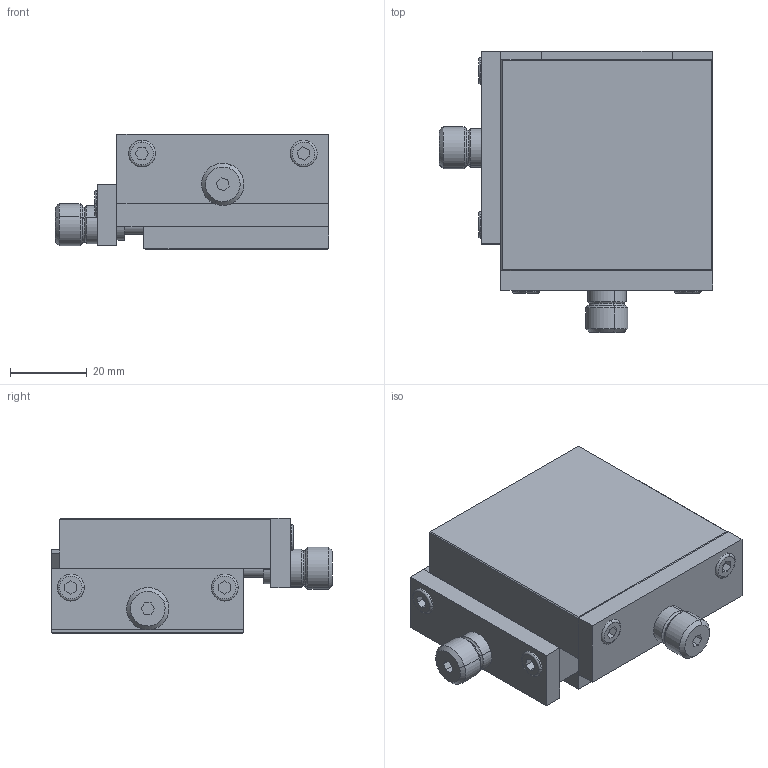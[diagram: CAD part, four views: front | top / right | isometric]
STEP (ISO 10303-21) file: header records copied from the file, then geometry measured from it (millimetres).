
FILE_DESCRIPTION(('STEP AP214'),'1');
FILE_NAME('tmp0.stp','2020-10-01T13:15:00',(' '),(' '),'Spatial InterOp 3D',' ',' ');
FILE_SCHEMA(('automotive_design'));
Length unit declared in the file: millimetre
Products named in the file (13): B55A_StepAP214|NONE#403.663.00;NONE; B55A_StepAP214|NONE#403.662.00;NONE; B55A_StepAP214|NONE#DIN_912;NONE; B55A_StepAP214|NONE#403.700.00;NONE; B55A_StepAP214|NONE#403.664.00;NONE; B55A_StepAP214|NONE#403.666.00;NONE; B55A_StepAP214|NONE#403.668.00;NONE; B55A_StepAP214|NONE#402.865.00;NONE
Bounding box: 71 x 73.01 x 30 mm (x, y, z)
Volume: 89382 mm3; surface area: 40120.6 mm2
Topology: 13 solids, 13 shells, 320 faces, 752 edges, 472 vertices
Faces by surface type: plane 152, cylinder 116, cone 36, torus 16
Entity records: 12361 total; most frequent: CARTESIAN_POINT 1985, DIRECTION 1634, ORIENTED_EDGE 1472, EDGE_CURVE 736, AXIS2_PLACEMENT_3D 593, VERTEX_POINT 472, LINE 448, VECTOR 448
